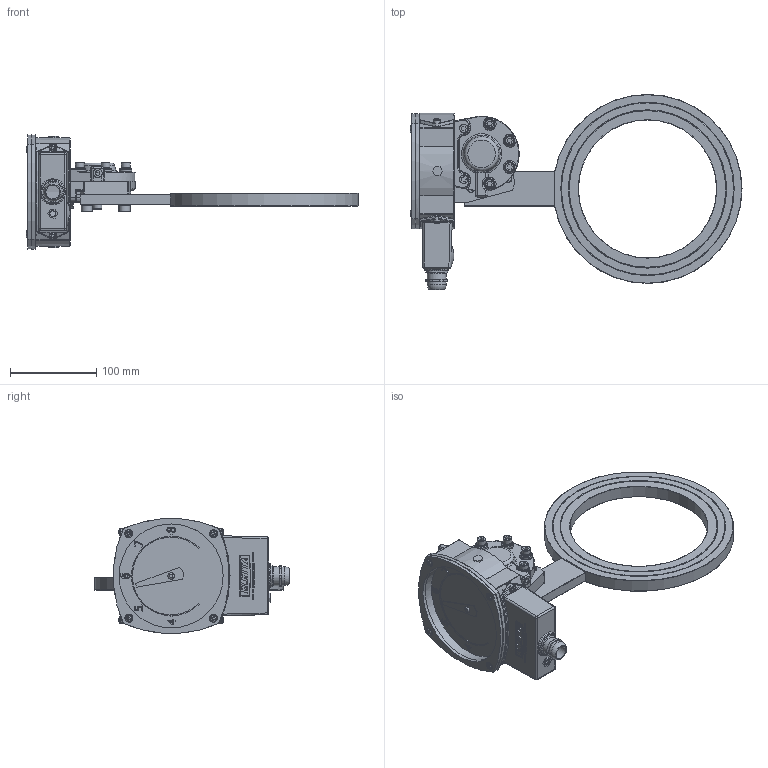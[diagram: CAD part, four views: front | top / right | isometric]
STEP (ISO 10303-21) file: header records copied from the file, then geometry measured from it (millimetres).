
FILE_DESCRIPTION(/* description */ ('Alibre Inc.'),/* implementation_level */ '2;1');
FILE_NAME(/* name */ 'export0',/* time_stamp */ '2012-10-19T13:43:02+02:00',/* author */ (''),/* organization */ (''),/* preprocessor_version */ 'ST-DEVELOPER v14',/* originating_system */ 'Alibre',/* authorisation */ '');
FILE_SCHEMA (('CONFIG_CONTROL_DESIGN'));
Length unit declared in the file: centimetre
Products named in the file (19): ID_1; ID_2; ID_3; ID_4; ID_5; ID_6; ID_7; ID_8; ID_9; ID_10; ID_11; ID_12; ID_13; ID_14
Bounding box: 384.74 x 226.11 x 132.76 mm (x, y, z)
Volume: 734150.8 mm3; surface area: 274979 mm2
Topology: 31 solids, 31 shells, 1723 faces, 4150 edges, 2558 vertices
Faces by surface type: plane 766, bspline 365, cylinder 322, torus 158, cone 86, sphere 26
Full cylindrical faces by diameter (mm): 3.9 x2, 5 x18, 5.2 x2, 5.5 x5, 5.541 x2, 6 x28, 6.35 x2, 6.5 x7, 8 x7, 8.5 x2, 9.6 x6, 10 x11, 10.5 x1, 12 x3, 13 x2, 14 x3, 16 x1, 19.5 x1, 22 x2, 22.5 x4, 25 x1, 29 x1, 31 x1, 120.5 x3, 123.4 x1, 129 x1, 160 x1, 182 x2, 183 x2, 200 x2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
Entity records: 60556 total; most frequent: CARTESIAN_POINT 28551, ORIENTED_EDGE 6474, DIRECTION 4845, EDGE_CURVE 3237, VERTEX_POINT 2118, AXIS2_PLACEMENT_3D 2016, EDGE_LOOP 1787, FACE_BOUND 1787
